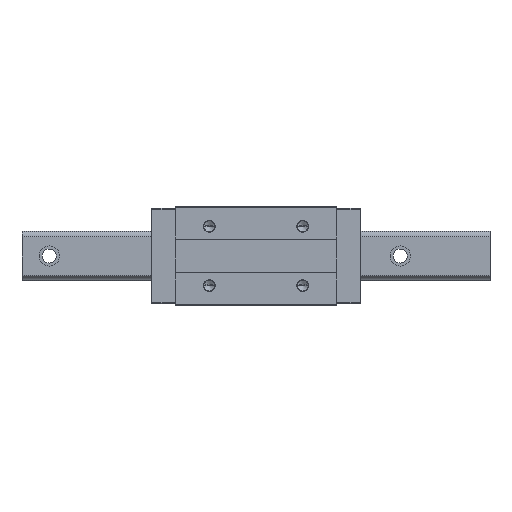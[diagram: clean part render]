
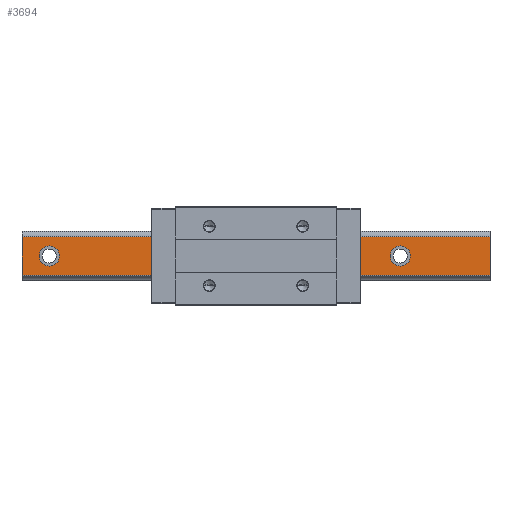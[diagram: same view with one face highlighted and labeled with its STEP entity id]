
A CAD part, top view. The second image highlights one B-rep face of the part: STEP entity #3694.
In plain terms, the highlighted planar face has unit normal (0, 0, 1).
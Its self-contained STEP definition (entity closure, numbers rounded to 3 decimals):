
#3 = CARTESIAN_POINT ( 'NONE',  ( -115., 0., 53. ) ) ;
#13 = VERTEX_POINT ( 'NONE', #82 ) ;
#82 = CARTESIAN_POINT ( 'NONE',  ( -128., 0., 53. ) ) ;
#101 = CARTESIAN_POINT ( 'NONE',  ( 300., -24.864, 53. ) ) ;
#110 = VERTEX_POINT ( 'NONE', #2351 ) ;
#111 = CARTESIAN_POINT ( 'NONE',  ( 198., 0., 53. ) ) ;
#126 = DIRECTION ( 'NONE',  ( 0., 0., -1. ) ) ;
#150 = ORIENTED_EDGE ( 'NONE', *, *, #1414, .T. ) ;
#264 = ORIENTED_EDGE ( 'NONE', *, *, #3334, .T. ) ;
#274 = EDGE_CURVE ( 'NONE', #3847, #1261, #2782, .T. ) ;
#318 = CARTESIAN_POINT ( 'NONE',  ( 300., 0., 53. ) ) ;
#330 = CARTESIAN_POINT ( 'NONE',  ( -265., 0., 53. ) ) ;
#448 = DIRECTION ( 'NONE',  ( -1., 0., 0. ) ) ;
#458 = VECTOR ( 'NONE', #3958, 1000. ) ;
#505 = DIRECTION ( 'NONE',  ( 0., 0., -1. ) ) ;
#546 = VERTEX_POINT ( 'NONE', #1099 ) ;
#606 = CARTESIAN_POINT ( 'NONE',  ( 300., 25.2, 53. ) ) ;
#628 = FACE_BOUND ( 'NONE', #654, .T. ) ;
#654 = EDGE_LOOP ( 'NONE', ( #3960, #4041 ) ) ;
#656 = AXIS2_PLACEMENT_3D ( 'NONE', #318, #1582, #2851 ) ;
#843 = CARTESIAN_POINT ( 'NONE',  ( -300., 24.864, 53. ) ) ;
#881 = LINE ( 'NONE', #2141, #1845 ) ;
#946 = FACE_OUTER_BOUND ( 'NONE', #2056, .T. ) ;
#980 = CARTESIAN_POINT ( 'NONE',  ( 48., 0., 53. ) ) ;
#996 = CIRCLE ( 'NONE', #1055, 13. ) ;
#1046 = LINE ( 'NONE', #2313, #3152 ) ;
#1055 = AXIS2_PLACEMENT_3D ( 'NONE', #2637, #3886, #1065 ) ;
#1060 = AXIS2_PLACEMENT_3D ( 'NONE', #330, #1592, #2860 ) ;
#1062 = CIRCLE ( 'NONE', #1060, 13. ) ;
#1065 = DIRECTION ( 'NONE',  ( -1., 0., 0. ) ) ;
#1099 = CARTESIAN_POINT ( 'NONE',  ( -252., 0., 53. ) ) ;
#1109 = EDGE_CURVE ( 'NONE', #13, #110, #1317, .T. ) ;
#1116 = VERTEX_POINT ( 'NONE', #3748 ) ;
#1154 = CARTESIAN_POINT ( 'NONE',  ( 300., 24.864, 53. ) ) ;
#1201 = CARTESIAN_POINT ( 'NONE',  ( 185., 0., 53. ) ) ;
#1204 = DIRECTION ( 'NONE',  ( -1., 0., 0. ) ) ;
#1229 = DIRECTION ( 'NONE',  ( 0., 0., -1. ) ) ;
#1251 = CARTESIAN_POINT ( 'NONE',  ( -278., 0., 53. ) ) ;
#1260 = AXIS2_PLACEMENT_3D ( 'NONE', #1201, #2471, #3714 ) ;
#1261 = VERTEX_POINT ( 'NONE', #111 ) ;
#1274 = ORIENTED_EDGE ( 'NONE', *, *, #2904, .T. ) ;
#1317 = CIRCLE ( 'NONE', #1455, 13. ) ;
#1370 = DIRECTION ( 'NONE',  ( -1., 0., 0. ) ) ;
#1414 = EDGE_CURVE ( 'NONE', #2806, #3430, #1912, .T. ) ;
#1425 = VERTEX_POINT ( 'NONE', #1154 ) ;
#1438 = LINE ( 'NONE', #2707, #458 ) ;
#1455 = AXIS2_PLACEMENT_3D ( 'NONE', #3, #1229, #2501 ) ;
#1485 = EDGE_CURVE ( 'NONE', #1898, #1116, #881, .T. ) ;
#1515 = ORIENTED_EDGE ( 'NONE', *, *, #2197, .T. ) ;
#1582 = DIRECTION ( 'NONE',  ( 0., 0., -1. ) ) ;
#1592 = DIRECTION ( 'NONE',  ( 0., 0., -1. ) ) ;
#1611 = ORIENTED_EDGE ( 'NONE', *, *, #1485, .T. ) ;
#1763 = DIRECTION ( 'NONE',  ( -1., 0., 0. ) ) ;
#1810 = EDGE_CURVE ( 'NONE', #3430, #2806, #2558, .T. ) ;
#1820 = EDGE_LOOP ( 'NONE', ( #3406, #264 ) ) ;
#1845 = VECTOR ( 'NONE', #3398, 1000. ) ;
#1865 = DIRECTION ( 'NONE',  ( 0., -1., 0. ) ) ;
#1889 = FACE_BOUND ( 'NONE', #2815, .T. ) ;
#1898 = VERTEX_POINT ( 'NONE', #843 ) ;
#1911 = AXIS2_PLACEMENT_3D ( 'NONE', #3338, #505, #1763 ) ;
#1912 = CIRCLE ( 'NONE', #1911, 13. ) ;
#1950 = ORIENTED_EDGE ( 'NONE', *, *, #2730, .F. ) ;
#2019 = CARTESIAN_POINT ( 'NONE',  ( 35., 0., 53. ) ) ;
#2056 = EDGE_LOOP ( 'NONE', ( #1950, #1515, #1611, #3713 ) ) ;
#2060 = VERTEX_POINT ( 'NONE', #1251 ) ;
#2141 = CARTESIAN_POINT ( 'NONE',  ( -300., 0., 53. ) ) ;
#2164 = ORIENTED_EDGE ( 'NONE', *, *, #1810, .T. ) ;
#2197 = EDGE_CURVE ( 'NONE', #1425, #1898, #1046, .T. ) ;
#2213 = FACE_BOUND ( 'NONE', #1820, .T. ) ;
#2313 = CARTESIAN_POINT ( 'NONE',  ( 300., 24.864, 53. ) ) ;
#2351 = CARTESIAN_POINT ( 'NONE',  ( -102., 0., 53. ) ) ;
#2456 = AXIS2_PLACEMENT_3D ( 'NONE', #2781, #4031, #1204 ) ;
#2471 = DIRECTION ( 'NONE',  ( 0., 0., -1. ) ) ;
#2501 = DIRECTION ( 'NONE',  ( -1., 0., 0. ) ) ;
#2525 = AXIS2_PLACEMENT_3D ( 'NONE', #2019, #3280, #448 ) ;
#2528 = VERTEX_POINT ( 'NONE', #101 ) ;
#2558 = CIRCLE ( 'NONE', #2525, 13. ) ;
#2637 = CARTESIAN_POINT ( 'NONE',  ( 185., 0., 53. ) ) ;
#2707 = CARTESIAN_POINT ( 'NONE',  ( 300., -24.864, 53. ) ) ;
#2730 = EDGE_CURVE ( 'NONE', #1425, #2528, #3439, .T. ) ;
#2781 = CARTESIAN_POINT ( 'NONE',  ( -115., 0., 53. ) ) ;
#2782 = CIRCLE ( 'NONE', #1260, 13. ) ;
#2806 = VERTEX_POINT ( 'NONE', #980 ) ;
#2815 = EDGE_LOOP ( 'NONE', ( #1274, #3485 ) ) ;
#2851 = DIRECTION ( 'NONE',  ( 0., -1., 0. ) ) ;
#2860 = DIRECTION ( 'NONE',  ( -1., 0., 0. ) ) ;
#2904 = EDGE_CURVE ( 'NONE', #2060, #546, #3889, .T. ) ;
#2949 = CARTESIAN_POINT ( 'NONE',  ( -265., 0., 53. ) ) ;
#2995 = EDGE_LOOP ( 'NONE', ( #2164, #150 ) ) ;
#3104 = EDGE_CURVE ( 'NONE', #110, #13, #3634, .T. ) ;
#3152 = VECTOR ( 'NONE', #3563, 1000. ) ;
#3154 = PLANE ( 'NONE',  #656 ) ;
#3207 = EDGE_CURVE ( 'NONE', #546, #2060, #1062, .T. ) ;
#3279 = CARTESIAN_POINT ( 'NONE',  ( 172., 0., 53. ) ) ;
#3280 = DIRECTION ( 'NONE',  ( 0., 0., -1. ) ) ;
#3334 = EDGE_CURVE ( 'NONE', #1261, #3847, #996, .T. ) ;
#3338 = CARTESIAN_POINT ( 'NONE',  ( 35., 0., 53. ) ) ;
#3398 = DIRECTION ( 'NONE',  ( 0., -1., 0. ) ) ;
#3406 = ORIENTED_EDGE ( 'NONE', *, *, #274, .T. ) ;
#3430 = VERTEX_POINT ( 'NONE', #3948 ) ;
#3439 = LINE ( 'NONE', #606, #3695 ) ;
#3461 = FACE_BOUND ( 'NONE', #2995, .T. ) ;
#3485 = ORIENTED_EDGE ( 'NONE', *, *, #3207, .T. ) ;
#3563 = DIRECTION ( 'NONE',  ( -1., 0., 0. ) ) ;
#3634 = CIRCLE ( 'NONE', #2456, 13. ) ;
#3694 = ADVANCED_FACE ( 'NONE', ( #946, #2213, #3461, #628, #1889 ), #3154, .F. ) ;
#3695 = VECTOR ( 'NONE', #1865, 1000. ) ;
#3713 = ORIENTED_EDGE ( 'NONE', *, *, #3933, .T. ) ;
#3714 = DIRECTION ( 'NONE',  ( -1., 0., 0. ) ) ;
#3748 = CARTESIAN_POINT ( 'NONE',  ( -300., -24.864, 53. ) ) ;
#3847 = VERTEX_POINT ( 'NONE', #3279 ) ;
#3886 = DIRECTION ( 'NONE',  ( 0., 0., -1. ) ) ;
#3889 = CIRCLE ( 'NONE', #3892, 13. ) ;
#3892 = AXIS2_PLACEMENT_3D ( 'NONE', #2949, #126, #1370 ) ;
#3933 = EDGE_CURVE ( 'NONE', #1116, #2528, #1438, .T. ) ;
#3948 = CARTESIAN_POINT ( 'NONE',  ( 22., 0., 53. ) ) ;
#3958 = DIRECTION ( 'NONE',  ( 1., 0., 0. ) ) ;
#3960 = ORIENTED_EDGE ( 'NONE', *, *, #1109, .T. ) ;
#4031 = DIRECTION ( 'NONE',  ( 0., 0., -1. ) ) ;
#4041 = ORIENTED_EDGE ( 'NONE', *, *, #3104, .T. ) ;
